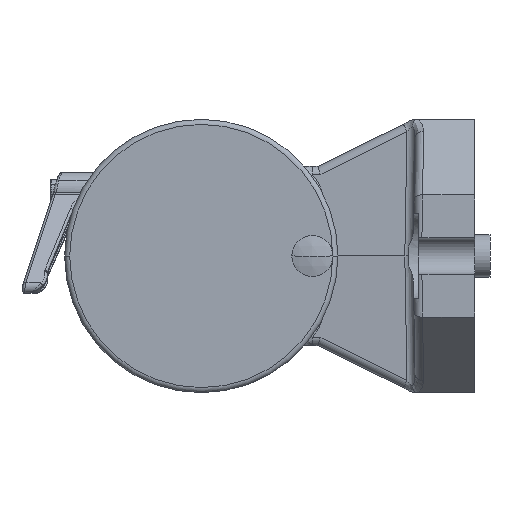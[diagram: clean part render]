
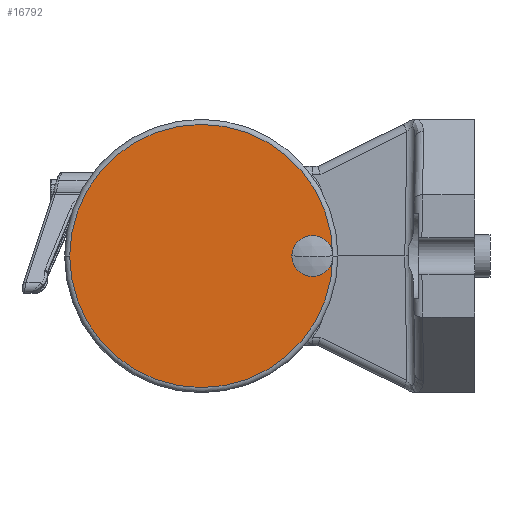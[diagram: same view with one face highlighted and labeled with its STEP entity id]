
A CAD part, left-side view. The second image highlights one B-rep face of the part: STEP entity #16792.
In plain terms, the highlighted planar face has unit normal (-1, 0, 0).
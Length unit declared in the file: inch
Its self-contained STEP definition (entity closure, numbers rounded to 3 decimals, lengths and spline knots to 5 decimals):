
#234 = DIRECTION ( 'NONE',  ( 0., 1., 0. ) ) ;
#417 = EDGE_CURVE ( 'Defeatured_0_358+Defeatured_0_359+Defeatured_0_359+Defeatured_0_359', #35261, #38345, #36265, .T. ) ;
#987 = DIRECTION ( 'NONE',  ( 0., 1., 0. ) ) ;
#1107 = CIRCLE ( 'NONE', #7955, 1.925 ) ;
#2598 = EDGE_LOOP ( 'NONE', ( #3511, #26603 ) ) ;
#3511 = ORIENTED_EDGE ( 'NONE', *, *, #417, .F. ) ;
#3528 = DIRECTION ( 'NONE',  ( -1., 0., 0. ) ) ;
#3768 = CARTESIAN_POINT ( 'NONE',  ( -5.9186, -1.925, 0. ) ) ;
#7955 = AXIS2_PLACEMENT_3D ( 'NONE', #9160, #3528, #17683 ) ;
#8109 = ORIENTED_EDGE ( 'NONE', *, *, #21610, .T. ) ;
#8342 = CIRCLE ( 'NONE', #30002, 0.24 ) ;
#8539 = CIRCLE ( 'NONE', #25234, 1.925 ) ;
#9160 = CARTESIAN_POINT ( 'NONE',  ( -5.9186, 0., 0. ) ) ;
#9705 = CARTESIAN_POINT ( 'NONE',  ( -5.9186, -1.625, 0. ) ) ;
#10094 = DIRECTION ( 'NONE',  ( -1., 0., 0. ) ) ;
#11407 = EDGE_LOOP ( 'NONE', ( #8109, #22463 ) ) ;
#12315 = CARTESIAN_POINT ( 'NONE',  ( -5.9186, -1.865, 0. ) ) ;
#14521 = EDGE_CURVE ( 'Defeatured_0_358+Defeatured_0_359+Defeatured_0_359+Defeatured_0_359', #38345, #35261, #8342, .T. ) ;
#14808 = CARTESIAN_POINT ( 'NONE',  ( -5.9186, -1.385, 0. ) ) ;
#16792 = ADVANCED_FACE ( 'Defeatured_0_359', ( #17755, #20485 ), #23570, .T. ) ;
#17683 = DIRECTION ( 'NONE',  ( 0., 1., 0. ) ) ;
#17755 = FACE_BOUND ( 'NONE', #2598, .T. ) ;
#20187 = CARTESIAN_POINT ( 'NONE',  ( -5.9186, -1.625, 0. ) ) ;
#20485 = FACE_OUTER_BOUND ( 'NONE', #11407, .T. ) ;
#20789 = DIRECTION ( 'NONE',  ( -1., 0., 0. ) ) ;
#21610 = EDGE_CURVE ( 'Defeatured_0_359+Defeatured_0_361+Defeatured_0_361+Defeatured_0_361', #21990, #37527, #1107, .T. ) ;
#21623 = EDGE_CURVE ( 'Defeatured_0_359+Defeatured_0_361+Defeatured_0_361+Defeatured_0_361', #37527, #21990, #8539, .T. ) ;
#21883 = CARTESIAN_POINT ( 'NONE',  ( -5.9186, 1.925, 0. ) ) ;
#21990 = VERTEX_POINT ( 'NONE', #21883 ) ;
#22463 = ORIENTED_EDGE ( 'NONE', *, *, #21623, .T. ) ;
#23570 = PLANE ( 'NONE',  #36853 ) ;
#23648 = DIRECTION ( 'NONE',  ( -1., 0., 0. ) ) ;
#24143 = CARTESIAN_POINT ( 'NONE',  ( -5.9186, -1.925, 1.9635 ) ) ;
#25234 = AXIS2_PLACEMENT_3D ( 'NONE', #26790, #20789, #234 ) ;
#26603 = ORIENTED_EDGE ( 'NONE', *, *, #14521, .F. ) ;
#26790 = CARTESIAN_POINT ( 'NONE',  ( -5.9186, 0., 0. ) ) ;
#30002 = AXIS2_PLACEMENT_3D ( 'NONE', #20187, #23648, #32021 ) ;
#30362 = DIRECTION ( 'NONE',  ( 0., 1., 0. ) ) ;
#32021 = DIRECTION ( 'NONE',  ( 0., 1., 0. ) ) ;
#33096 = DIRECTION ( 'NONE',  ( -1., 0., 0. ) ) ;
#35261 = VERTEX_POINT ( 'NONE', #14808 ) ;
#36265 = CIRCLE ( 'NONE', #38134, 0.24 ) ;
#36853 = AXIS2_PLACEMENT_3D ( 'NONE', #24143, #33096, #30362 ) ;
#37527 = VERTEX_POINT ( 'NONE', #3768 ) ;
#38134 = AXIS2_PLACEMENT_3D ( 'NONE', #9705, #10094, #987 ) ;
#38345 = VERTEX_POINT ( 'NONE', #12315 ) ;
